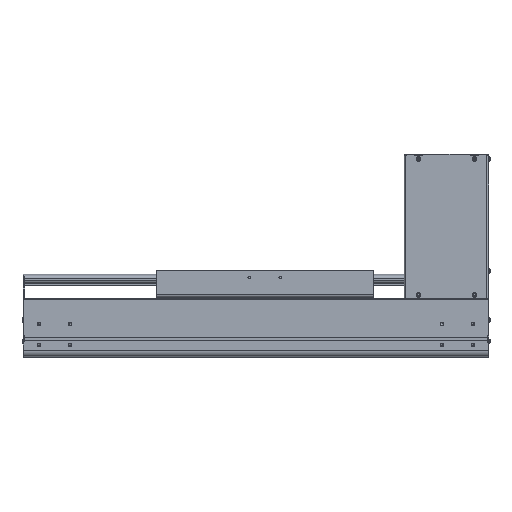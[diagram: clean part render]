
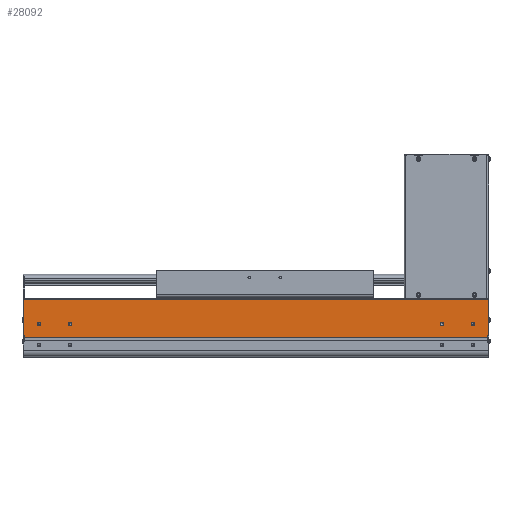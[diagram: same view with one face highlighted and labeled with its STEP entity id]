
A CAD part, top view. The second image highlights one B-rep face of the part: STEP entity #28092.
In plain terms, the highlighted planar face has unit normal (0, 0, 1).
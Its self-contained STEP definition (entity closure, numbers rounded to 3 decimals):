
#623=CARTESIAN_POINT('',(0.,94.,107.));
#7846=DIRECTION('',(-1.,0.,0.));
#7847=VECTOR('',#7846,748.5);
#7848=CARTESIAN_POINT('',(0.,93.5,107.));
#7849=LINE('',#7848,#7847);
#7877=CARTESIAN_POINT('',(-723.5,54.,107.));
#7878=DIRECTION('',(0.,0.,-1.));
#7879=DIRECTION('',(1.,0.,0.));
#7880=AXIS2_PLACEMENT_3D('',#7877,#7878,#7879);
#7882=CARTESIAN_POINT('',(-723.5,54.,107.));
#7883=DIRECTION('',(0.,0.,-1.));
#7884=DIRECTION('',(-1.,0.,0.));
#7885=AXIS2_PLACEMENT_3D('',#7882,#7883,#7884);
#7887=CARTESIAN_POINT('',(-673.5,54.,107.));
#7888=DIRECTION('',(0.,0.,-1.));
#7889=DIRECTION('',(1.,0.,0.));
#7890=AXIS2_PLACEMENT_3D('',#7887,#7888,#7889);
#7892=CARTESIAN_POINT('',(-673.5,54.,107.));
#7893=DIRECTION('',(0.,0.,-1.));
#7894=DIRECTION('',(-1.,0.,0.));
#7895=AXIS2_PLACEMENT_3D('',#7892,#7893,#7894);
#7897=CARTESIAN_POINT('',(-23.5,54.,107.));
#7898=DIRECTION('',(0.,0.,-1.));
#7899=DIRECTION('',(1.,0.,0.));
#7900=AXIS2_PLACEMENT_3D('',#7897,#7898,#7899);
#7902=CARTESIAN_POINT('',(-23.5,54.,107.));
#7903=DIRECTION('',(0.,0.,-1.));
#7904=DIRECTION('',(-1.,0.,0.));
#7905=AXIS2_PLACEMENT_3D('',#7902,#7903,#7904);
#7907=CARTESIAN_POINT('',(-73.5,54.,107.));
#7908=DIRECTION('',(0.,0.,-1.));
#7909=DIRECTION('',(1.,0.,0.));
#7910=AXIS2_PLACEMENT_3D('',#7907,#7908,#7909);
#7912=CARTESIAN_POINT('',(-73.5,54.,107.));
#7913=DIRECTION('',(0.,0.,-1.));
#7914=DIRECTION('',(-1.,0.,0.));
#7915=AXIS2_PLACEMENT_3D('',#7912,#7913,#7914);
#7917=DIRECTION('',(0.,-1.,0.));
#7918=VECTOR('',#7917,2.55);
#7919=CARTESIAN_POINT('',(-746.5,34.65,107.));
#7920=LINE('',#7919,#7918);
#7921=DIRECTION('',(0.,-1.,0.));
#7922=VECTOR('',#7921,58.85);
#7923=CARTESIAN_POINT('',(-748.5,93.5,107.));
#7924=LINE('',#7923,#7922);
#7925=DIRECTION('',(0.,-1.,0.));
#7926=VECTOR('',#7925,0.5);
#7927=CARTESIAN_POINT('',(0.,94.,107.));
#7928=LINE('',#7927,#7926);
#7929=DIRECTION('',(0.,1.,0.));
#7930=VECTOR('',#7929,58.35);
#7931=CARTESIAN_POINT('',(1.5,35.65,107.));
#7932=LINE('',#7931,#7930);
#7933=DIRECTION('',(0.,1.,0.));
#7934=VECTOR('',#7933,3.55);
#7935=CARTESIAN_POINT('',(0.,32.1,107.));
#7936=LINE('',#7935,#7934);
#7937=DIRECTION('',(1.,0.,0.));
#7938=VECTOR('',#7937,746.5);
#7939=CARTESIAN_POINT('',(-746.5,32.1,107.));
#7940=LINE('',#7939,#7938);
#8049=DIRECTION('',(1.,0.,0.));
#8050=VECTOR('',#8049,2.);
#8051=CARTESIAN_POINT('',(-748.5,34.65,107.));
#8052=LINE('',#8051,#8050);
#8077=DIRECTION('',(-1.,0.,0.));
#8078=VECTOR('',#8077,1.5);
#8079=CARTESIAN_POINT('',(1.5,94.,107.));
#8080=LINE('',#8079,#8078);
#8081=DIRECTION('',(1.,0.,0.));
#8082=VECTOR('',#8081,1.5);
#8083=CARTESIAN_POINT('',(0.,35.65,107.));
#8084=LINE('',#8083,#8082);
#14030=CARTESIAN_POINT('',(1.5,94.,107.));
#14031=VERTEX_POINT('',#14030);
#14032=CARTESIAN_POINT('',(1.5,35.65,107.));
#14033=VERTEX_POINT('',#14032);
#14074=VERTEX_POINT('',#623);
#14106=CARTESIAN_POINT('',(-748.5,34.65,107.));
#14107=VERTEX_POINT('',#14106);
#14108=CARTESIAN_POINT('',(-748.5,93.5,107.));
#14109=VERTEX_POINT('',#14108);
#14334=CARTESIAN_POINT('',(-746.5,32.1,107.));
#14335=VERTEX_POINT('',#14334);
#14385=CARTESIAN_POINT('',(0.,32.1,107.));
#14387=VERTEX_POINT('',#14385);
#14748=CARTESIAN_POINT('',(-721.,54.,107.));
#14749=CARTESIAN_POINT('',(-726.,54.,107.));
#14750=VERTEX_POINT('',#14748);
#14751=VERTEX_POINT('',#14749);
#14752=CARTESIAN_POINT('',(-671.,54.,107.));
#14753=CARTESIAN_POINT('',(-676.,54.,107.));
#14754=VERTEX_POINT('',#14752);
#14755=VERTEX_POINT('',#14753);
#14756=CARTESIAN_POINT('',(-21.,54.,107.));
#14757=CARTESIAN_POINT('',(-26.,54.,107.));
#14758=VERTEX_POINT('',#14756);
#14759=VERTEX_POINT('',#14757);
#14760=CARTESIAN_POINT('',(-71.,54.,107.));
#14761=CARTESIAN_POINT('',(-76.,54.,107.));
#14762=VERTEX_POINT('',#14760);
#14763=VERTEX_POINT('',#14761);
#16486=CARTESIAN_POINT('',(0.,35.65,107.));
#16487=VERTEX_POINT('',#16486);
#16732=CARTESIAN_POINT('',(0.,93.5,107.));
#16733=VERTEX_POINT('',#16732);
#17091=CARTESIAN_POINT('',(-746.5,34.65,107.));
#17092=VERTEX_POINT('',#17091);
#28047=CARTESIAN_POINT('',(-373.25,62.8,107.));
#28048=DIRECTION('',(0.,0.,1.));
#28049=DIRECTION('',(0.,-1.,0.));
#28050=AXIS2_PLACEMENT_3D('',#28047,#28048,#28049);
#28051=PLANE('',#28050);
#28052=ORIENTED_EDGE('',*,*,#19300,.F.);
#28054=ORIENTED_EDGE('',*,*,#28053,.F.);
#28055=ORIENTED_EDGE('',*,*,#25665,.F.);
#28056=ORIENTED_EDGE('',*,*,#28036,.F.);
#28057=ORIENTED_EDGE('',*,*,#18413,.F.);
#28059=ORIENTED_EDGE('',*,*,#28058,.F.);
#28060=ORIENTED_EDGE('',*,*,#20299,.F.);
#28062=ORIENTED_EDGE('',*,*,#28061,.F.);
#28063=ORIENTED_EDGE('',*,*,#20061,.F.);
#28065=ORIENTED_EDGE('',*,*,#28064,.F.);
#28066=EDGE_LOOP('',(#28052,#28054,#28055,#28056,#28057,#28059,#28060,#28062,
#28063,#28065));
#28067=FACE_OUTER_BOUND('',#28066,.F.);
#28069=ORIENTED_EDGE('',*,*,#28068,.F.);
#28071=ORIENTED_EDGE('',*,*,#28070,.F.);
#28072=EDGE_LOOP('',(#28069,#28071));
#28073=FACE_BOUND('',#28072,.F.);
#28075=ORIENTED_EDGE('',*,*,#28074,.F.);
#28077=ORIENTED_EDGE('',*,*,#28076,.F.);
#28078=EDGE_LOOP('',(#28075,#28077));
#28079=FACE_BOUND('',#28078,.F.);
#28081=ORIENTED_EDGE('',*,*,#28080,.F.);
#28083=ORIENTED_EDGE('',*,*,#28082,.F.);
#28084=EDGE_LOOP('',(#28081,#28083));
#28085=FACE_BOUND('',#28084,.F.);
#28087=ORIENTED_EDGE('',*,*,#28086,.F.);
#28089=ORIENTED_EDGE('',*,*,#28088,.F.);
#28090=EDGE_LOOP('',(#28087,#28089));
#28091=FACE_BOUND('',#28090,.F.);
#28092=ADVANCED_FACE('',(#28067,#28073,#28079,#28085,#28091),#28051,.T.);
#7881=CIRCLE('',#7880,2.5);
#7886=CIRCLE('',#7885,2.5);
#7891=CIRCLE('',#7890,2.5);
#7896=CIRCLE('',#7895,2.5);
#7901=CIRCLE('',#7900,2.5);
#7906=CIRCLE('',#7905,2.5);
#7911=CIRCLE('',#7910,2.5);
#7916=CIRCLE('',#7915,2.5);
#18413=EDGE_CURVE('',#14074,#16733,#7928,.T.);
#19300=EDGE_CURVE('',#17092,#14335,#7920,.T.);
#20061=EDGE_CURVE('',#14387,#16487,#7936,.T.);
#20299=EDGE_CURVE('',#14033,#14031,#7932,.T.);
#25665=EDGE_CURVE('',#14109,#14107,#7924,.T.);
#28036=EDGE_CURVE('',#16733,#14109,#7849,.T.);
#28053=EDGE_CURVE('',#14107,#17092,#8052,.T.);
#28058=EDGE_CURVE('',#14031,#14074,#8080,.T.);
#28061=EDGE_CURVE('',#16487,#14033,#8084,.T.);
#28064=EDGE_CURVE('',#14335,#14387,#7940,.T.);
#28068=EDGE_CURVE('',#14754,#14755,#7891,.T.);
#28070=EDGE_CURVE('',#14755,#14754,#7896,.T.);
#28074=EDGE_CURVE('',#14758,#14759,#7901,.T.);
#28076=EDGE_CURVE('',#14759,#14758,#7906,.T.);
#28080=EDGE_CURVE('',#14762,#14763,#7911,.T.);
#28082=EDGE_CURVE('',#14763,#14762,#7916,.T.);
#28086=EDGE_CURVE('',#14750,#14751,#7881,.T.);
#28088=EDGE_CURVE('',#14751,#14750,#7886,.T.);
